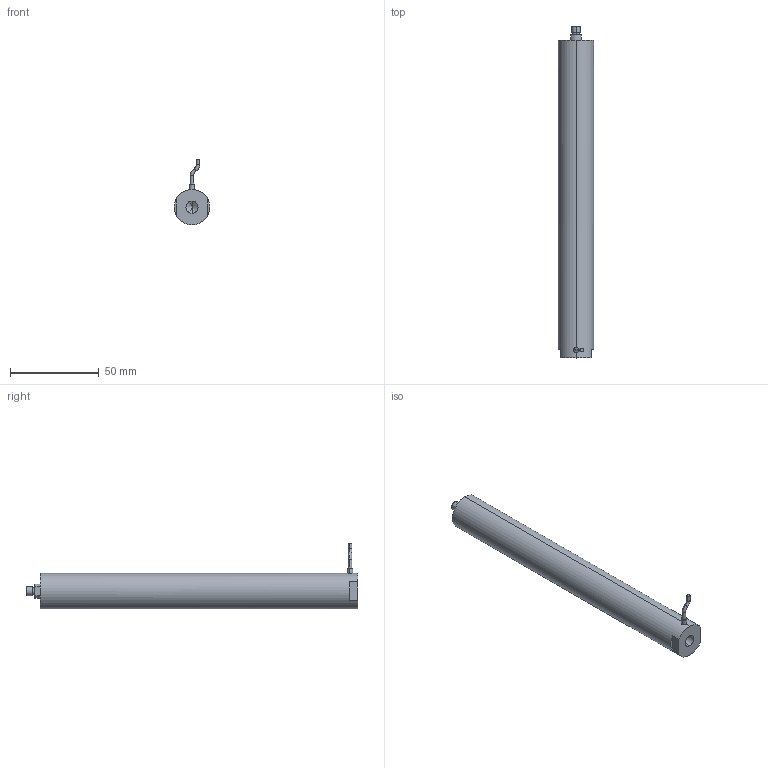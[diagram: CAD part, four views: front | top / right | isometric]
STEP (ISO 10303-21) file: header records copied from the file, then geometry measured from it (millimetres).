
FILE_DESCRIPTION (( 'STEP AP203' ), '1' );
FILE_NAME ('ﾍ篦ﾝﾎﾆﾊｽ180VS20.STEP', '2021-07-08T06:13:29', ( 'ﾎ｢ﾈ橆ﾃｻｧ' ), ( 'ﾎ｢ﾈ晥ｫﾋｾ' ), 'SwSTEP 2.0', 'SolidWorks 2016', '' );
FILE_SCHEMA (( 'CONFIG_CONTROL_DESIGN' ));
Products named in the file (1): 俋蹟恇宒180VS20
Bounding box: 20 x 187 x 37.06 mm (x, y, z)
Volume: 55997.3 mm3; surface area: 12398 mm2
Topology: 1 solids, 1 shells, 953 faces, 2573 edges, 1711 vertices
Faces by surface type: bspline 525, plane 309, cylinder 113, torus 4, cone 2
Entity records: 45945 total; most frequent: CARTESIAN_POINT 26650, ORIENTED_EDGE 5142, EDGE_CURVE 2571, DIRECTION 1965, B_SPLINE_CURVE_WITH_KNOTS 1740, VERTEX_POINT 1711, EDGE_LOOP 1044, ADVANCED_FACE 953
